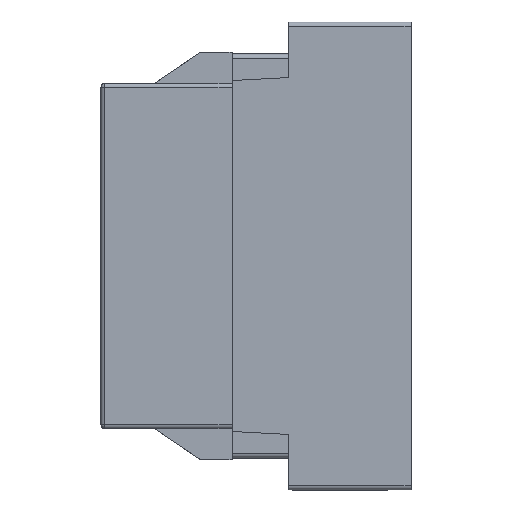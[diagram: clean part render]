
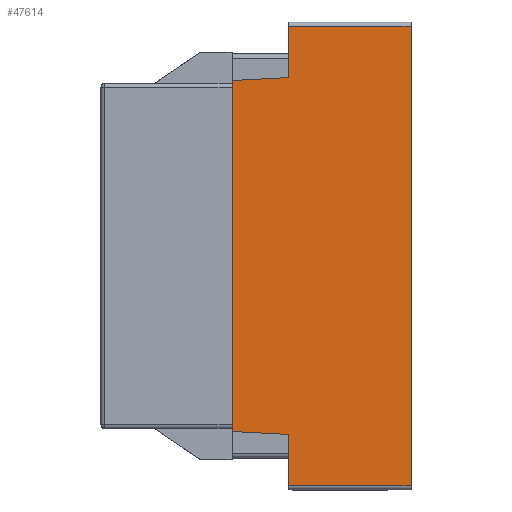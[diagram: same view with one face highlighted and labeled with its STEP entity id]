
A CAD part, left-side view. The second image highlights one B-rep face of the part: STEP entity #47614.
In plain terms, the highlighted planar face has unit normal (-1, 0, 0).
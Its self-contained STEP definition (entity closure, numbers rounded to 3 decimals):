
#2866 = EDGE_LOOP ( 'NONE', ( #43252, #43389, #42189, #8852, #53347, #54212, #55004, #15159 ) ) ;
#4526 = CARTESIAN_POINT ( 'NONE',  ( -48.702, 31.4, 50.636 ) ) ;
#4533 = DIRECTION ( 'NONE',  ( 1., 0., 0. ) ) ;
#4789 = LINE ( 'NONE', #22857, #8936 ) ;
#6000 = LINE ( 'NONE', #24080, #22760 ) ;
#8646 = DIRECTION ( 'NONE',  ( 0., -0.999, -0.052 ) ) ;
#8852 = ORIENTED_EDGE ( 'NONE', *, *, #52345, .T. ) ;
#8936 = VECTOR ( 'NONE', #40874, 1000. ) ;
#9003 = FACE_OUTER_BOUND ( 'NONE', #2866, .T. ) ;
#9494 = EDGE_CURVE ( 'NONE', #46883, #15509, #31134, .T. ) ;
#10861 = CARTESIAN_POINT ( 'NONE',  ( -48.702, 0., -67.164 ) ) ;
#11278 = EDGE_CURVE ( 'NONE', #40136, #34343, #24856, .T. ) ;
#12380 = LINE ( 'NONE', #30477, #32385 ) ;
#13154 = LINE ( 'NONE', #31252, #37893 ) ;
#14662 = EDGE_CURVE ( 'NONE', #27917, #48900, #6000, .T. ) ;
#15159 = ORIENTED_EDGE ( 'NONE', *, *, #9494, .T. ) ;
#15509 = VERTEX_POINT ( 'NONE', #30969 ) ;
#15910 = DIRECTION ( 'NONE',  ( 0., 0., 1. ) ) ;
#17161 = VERTEX_POINT ( 'NONE', #18600 ) ;
#17451 = EDGE_CURVE ( 'NONE', #17161, #40136, #20222, .T. ) ;
#18600 = CARTESIAN_POINT ( 'NONE',  ( -48.702, 31.4, -67.164 ) ) ;
#20222 = LINE ( 'NONE', #38298, #58095 ) ;
#21227 = CARTESIAN_POINT ( 'NONE',  ( -48.702, 45.9, 36.736 ) ) ;
#22452 = VECTOR ( 'NONE', #8646, 1000. ) ;
#22572 = VECTOR ( 'NONE', #15910, 1000. ) ;
#22578 = DIRECTION ( 'NONE',  ( 0., 1., 0. ) ) ;
#22584 = DIRECTION ( 'NONE',  ( 0., 0., -1. ) ) ;
#22760 = VECTOR ( 'NONE', #42078, 1000. ) ;
#22857 = CARTESIAN_POINT ( 'NONE',  ( -48.702, 45.9, 36.736 ) ) ;
#24080 = CARTESIAN_POINT ( 'NONE',  ( -48.702, 31.4, -68.264 ) ) ;
#24856 = LINE ( 'NONE', #56374, #22572 ) ;
#25643 = VERTEX_POINT ( 'NONE', #21227 ) ;
#26981 = AXIS2_PLACEMENT_3D ( 'NONE', #45004, #4533, #22584 ) ;
#27068 = PLANE ( 'NONE',  #26981 ) ;
#27917 = VERTEX_POINT ( 'NONE', #31072 ) ;
#30477 = CARTESIAN_POINT ( 'NONE',  ( -48.702, 31.4, -68.264 ) ) ;
#30969 = CARTESIAN_POINT ( 'NONE',  ( -48.702, 31.4, -54.024 ) ) ;
#31072 = CARTESIAN_POINT ( 'NONE',  ( -48.702, 31.4, 37.496 ) ) ;
#31134 = LINE ( 'NONE', #49073, #22452 ) ;
#31252 = CARTESIAN_POINT ( 'NONE',  ( -48.702, 45.9, -53.264 ) ) ;
#32385 = VECTOR ( 'NONE', #48416, 1000. ) ;
#32682 = VECTOR ( 'NONE', #22578, 1000. ) ;
#34343 = VERTEX_POINT ( 'NONE', #40926 ) ;
#34975 = CARTESIAN_POINT ( 'NONE',  ( -48.702, 45.9, -53.264 ) ) ;
#36938 = EDGE_CURVE ( 'NONE', #46883, #25643, #13154, .T. ) ;
#37893 = VECTOR ( 'NONE', #49186, 1000. ) ;
#38247 = EDGE_CURVE ( 'NONE', #17161, #15509, #12380, .T. ) ;
#38298 = CARTESIAN_POINT ( 'NONE',  ( -48.702, 31.4, -67.164 ) ) ;
#40136 = VERTEX_POINT ( 'NONE', #10861 ) ;
#40874 = DIRECTION ( 'NONE',  ( 0., -0.999, 0.052 ) ) ;
#40926 = CARTESIAN_POINT ( 'NONE',  ( -48.702, 0., 50.636 ) ) ;
#42049 = EDGE_CURVE ( 'NONE', #25643, #27917, #4789, .T. ) ;
#42078 = DIRECTION ( 'NONE',  ( 0., 0., 1. ) ) ;
#42189 = ORIENTED_EDGE ( 'NONE', *, *, #11278, .T. ) ;
#43252 = ORIENTED_EDGE ( 'NONE', *, *, #38247, .F. ) ;
#43389 = ORIENTED_EDGE ( 'NONE', *, *, #17451, .T. ) ;
#44994 = LINE ( 'NONE', #4526, #32682 ) ;
#45004 = CARTESIAN_POINT ( 'NONE',  ( -48.702, 31.4, -68.264 ) ) ;
#46883 = VERTEX_POINT ( 'NONE', #34975 ) ;
#47614 = ADVANCED_FACE ( 'NONE', ( #9003 ), #27068, .F. ) ;
#48416 = DIRECTION ( 'NONE',  ( 0., 0., 1. ) ) ;
#48900 = VERTEX_POINT ( 'NONE', #52715 ) ;
#49073 = CARTESIAN_POINT ( 'NONE',  ( -48.702, 30.656, -54.063 ) ) ;
#49186 = DIRECTION ( 'NONE',  ( 0., 0., 1. ) ) ;
#52345 = EDGE_CURVE ( 'NONE', #34343, #48900, #44994, .T. ) ;
#52715 = CARTESIAN_POINT ( 'NONE',  ( -48.702, 31.4, 50.636 ) ) ;
#53347 = ORIENTED_EDGE ( 'NONE', *, *, #14662, .F. ) ;
#54212 = ORIENTED_EDGE ( 'NONE', *, *, #42049, .F. ) ;
#55004 = ORIENTED_EDGE ( 'NONE', *, *, #36938, .F. ) ;
#56230 = DIRECTION ( 'NONE',  ( 0., -1., 0. ) ) ;
#56374 = CARTESIAN_POINT ( 'NONE',  ( -48.702, 0., -68.264 ) ) ;
#58095 = VECTOR ( 'NONE', #56230, 1000. ) ;
